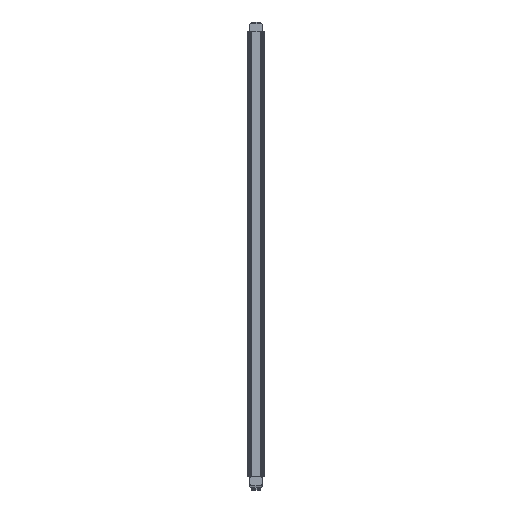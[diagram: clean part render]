
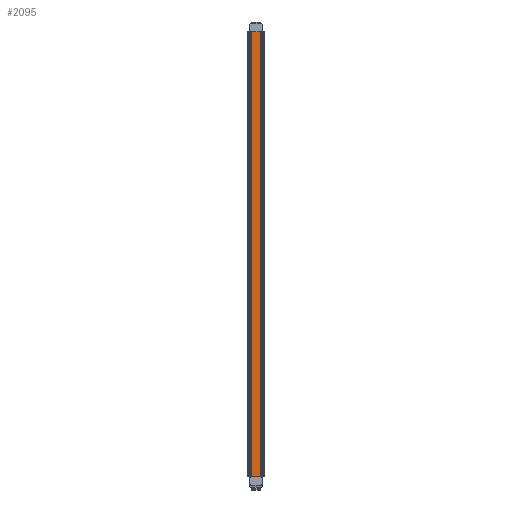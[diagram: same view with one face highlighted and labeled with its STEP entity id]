
A CAD part, top view. The second image highlights one B-rep face of the part: STEP entity #2095.
In plain terms, the highlighted planar face has unit normal (0, 0, 1).
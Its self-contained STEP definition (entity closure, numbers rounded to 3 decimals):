
#91 = ORIENTED_EDGE ( 'NONE', *, *, #3267, .T. ) ;
#211 = CARTESIAN_POINT ( 'NONE',  ( 8326., -7801.5, 329.646 ) ) ;
#245 = EDGE_CURVE ( 'NONE', #646, #1845, #2129, .T. ) ;
#400 = CARTESIAN_POINT ( 'NONE',  ( 8339.893, -6511.5, 329.646 ) ) ;
#541 = LINE ( 'NONE', #2937, #3808 ) ;
#646 = VERTEX_POINT ( 'NONE', #2645 ) ;
#657 = AXIS2_PLACEMENT_3D ( 'NONE', #3124, #2525, #3850 ) ;
#695 = VECTOR ( 'NONE', #1830, 1000. ) ;
#710 = LINE ( 'NONE', #2835, #1394 ) ;
#772 = VERTEX_POINT ( 'NONE', #2422 ) ;
#809 = ORIENTED_EDGE ( 'NONE', *, *, #3162, .F. ) ;
#1271 = FACE_OUTER_BOUND ( 'NONE', #2605, .T. ) ;
#1394 = VECTOR ( 'NONE', #2453, 1000. ) ;
#1419 = CARTESIAN_POINT ( 'NONE',  ( 8353., -6511.5, 329.646 ) ) ;
#1830 = DIRECTION ( 'NONE',  ( 1., 0., 0. ) ) ;
#1845 = VERTEX_POINT ( 'NONE', #1419 ) ;
#1970 = VECTOR ( 'NONE', #2472, 1000. ) ;
#2095 = ADVANCED_FACE ( 'NONE', ( #1271 ), #3420, .T. ) ;
#2129 = LINE ( 'NONE', #400, #1970 ) ;
#2333 = ORIENTED_EDGE ( 'NONE', *, *, #3824, .T. ) ;
#2342 = VERTEX_POINT ( 'NONE', #211 ) ;
#2422 = CARTESIAN_POINT ( 'NONE',  ( 8353., -7801.5, 329.646 ) ) ;
#2433 = CARTESIAN_POINT ( 'NONE',  ( 8339.893, -7801.5, 329.646 ) ) ;
#2453 = DIRECTION ( 'NONE',  ( 0., 1., 0. ) ) ;
#2472 = DIRECTION ( 'NONE',  ( 1., 0., 0. ) ) ;
#2525 = DIRECTION ( 'NONE',  ( 0., 0., 1. ) ) ;
#2605 = EDGE_LOOP ( 'NONE', ( #3545, #809, #91, #2333 ) ) ;
#2645 = CARTESIAN_POINT ( 'NONE',  ( 8326., -6511.5, 329.646 ) ) ;
#2835 = CARTESIAN_POINT ( 'NONE',  ( 8353., -7801.5, 329.646 ) ) ;
#2937 = CARTESIAN_POINT ( 'NONE',  ( 8326., -7801.5, 329.646 ) ) ;
#2988 = DIRECTION ( 'NONE',  ( 0., 1., 0. ) ) ;
#3124 = CARTESIAN_POINT ( 'NONE',  ( 8339.893, -7801.5, 329.646 ) ) ;
#3162 = EDGE_CURVE ( 'NONE', #2342, #646, #541, .T. ) ;
#3267 = EDGE_CURVE ( 'NONE', #2342, #772, #3947, .T. ) ;
#3420 = PLANE ( 'NONE',  #657 ) ;
#3545 = ORIENTED_EDGE ( 'NONE', *, *, #245, .F. ) ;
#3808 = VECTOR ( 'NONE', #2988, 1000. ) ;
#3824 = EDGE_CURVE ( 'NONE', #772, #1845, #710, .T. ) ;
#3850 = DIRECTION ( 'NONE',  ( 1., 0., 0. ) ) ;
#3947 = LINE ( 'NONE', #2433, #695 ) ;
